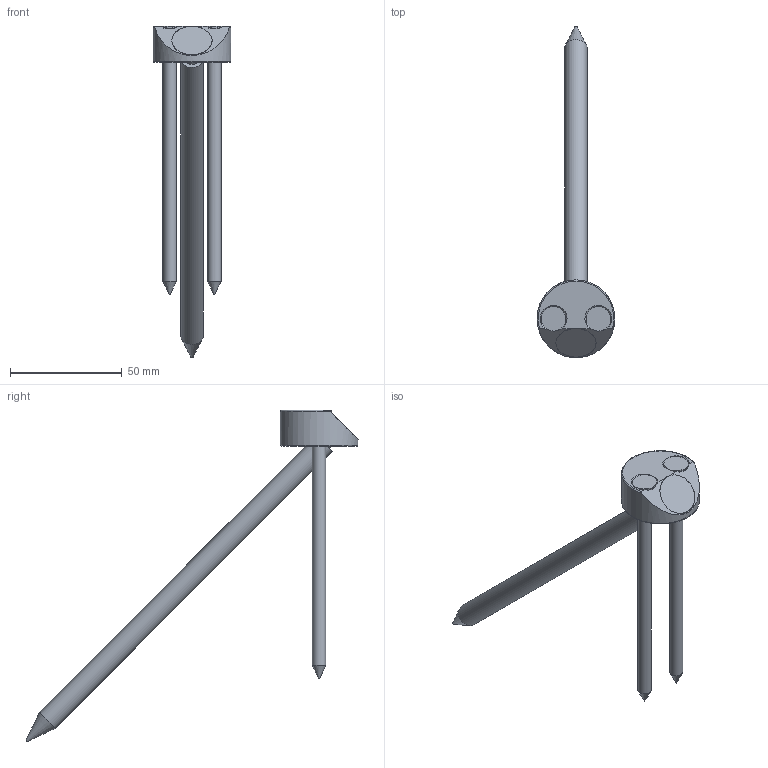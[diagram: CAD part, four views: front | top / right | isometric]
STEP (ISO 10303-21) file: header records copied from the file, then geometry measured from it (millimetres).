
FILE_DESCRIPTION(/* description */ ('Unknown'),/* implementation_level */ '2;1');
FILE_NAME(/* name */ 'T-Joint_D35_W45_SK-10x200_2xSK-6x120',/* time_stamp */ '2022-02-03T11:43:21+01:00',/* author */ ('Unknown'),/* organization */ ('Unknown'),/* preprocessor_version */ 'ST-DEVELOPER v16.7',/* originating_system */ 'Solid Edge',/* authorisation */ 'Unknown');
FILE_SCHEMA (('AUTOMOTIVE_DESIGN {1 0 10303 214 3 1 1}'));
Length unit declared in the file: millimetre
Products named in the file (4): T-Joint_D35_W45_SK-10x200_2xSK-6x120; T-Joint_D35_W45; SK Schraube 6x120_ohne_Gewinde; SK Schraube 10x200_ohne_Gewinde_22042020
Assembly tree (4 placements, depth 2):
  T-Joint_D35_W45_SK-10x200_2xSK-6x120
    T-Joint_D35_W45
    SK Schraube 6x120_ohne_Gewinde  x2
    SK Schraube 10x200_ohne_Gewinde_22042020
Bounding box: 34.78 x 148.42 x 148.14 mm (x, y, z)
Volume: 32653.7 mm3; surface area: 15296.4 mm2
Topology: 4 solids, 4 shells, 35 faces, 73 edges, 45 vertices
Faces by surface type: cylinder 12, plane 11, cone 9, torus 3
Full cylindrical faces by diameter (mm): 6 x2, 6.2 x2, 6.3 x1, 10 x2, 11 x2, 12.5 x1, 18 x1, 34.8 x1
Entity records: 771 total; most frequent: DIRECTION 130, CARTESIAN_POINT 126, ORIENTED_EDGE 76, AXIS2_PLACEMENT_3D 63, EDGE_LOOP 53, FACE_BOUND 53, EDGE_CURVE 38, VERTEX_POINT 33
